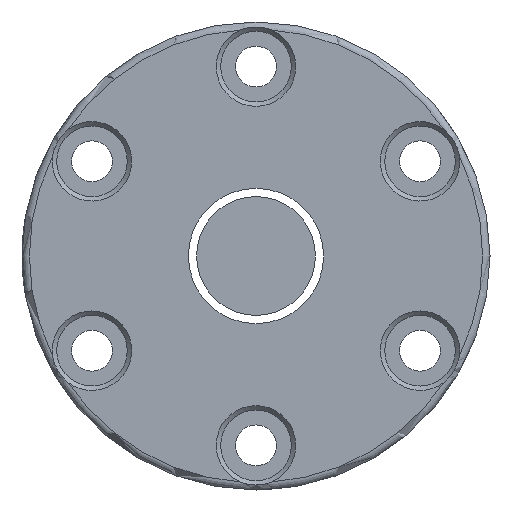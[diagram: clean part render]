
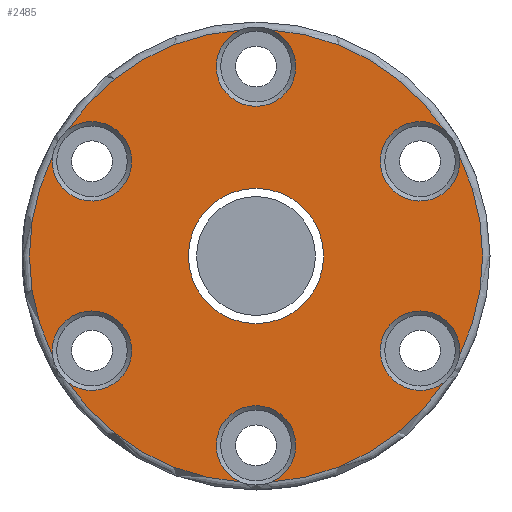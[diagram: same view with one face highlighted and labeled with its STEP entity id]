
A CAD part, left-side view. The second image highlights one B-rep face of the part: STEP entity #2485.
In plain terms, the highlighted planar face has unit normal (-1, 0, 0).
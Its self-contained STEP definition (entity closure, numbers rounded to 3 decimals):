
#7 = AXIS2_PLACEMENT_3D ( 'NONE', #2171, #3075, #946 ) ;
#83 = CARTESIAN_POINT ( 'NONE',  ( -56., 0., 0. ) ) ;
#89 = EDGE_CURVE ( 'NONE', #2234, #2029, #2149, .T. ) ;
#124 = AXIS2_PLACEMENT_3D ( 'NONE', #346, #827, #2183 ) ;
#132 = AXIS2_PLACEMENT_3D ( 'NONE', #2760, #1292, #998 ) ;
#160 = EDGE_CURVE ( 'NONE', #2140, #2688, #1552, .T. ) ;
#184 = EDGE_CURVE ( 'NONE', #2029, #2482, #1953, .T. ) ;
#203 = DIRECTION ( 'NONE',  ( -1., 0., 0. ) ) ;
#226 = AXIS2_PLACEMENT_3D ( 'NONE', #1399, #2352, #781 ) ;
#292 = CARTESIAN_POINT ( 'NONE',  ( -56., -27.392, 13.413 ) ) ;
#315 = EDGE_CURVE ( 'NONE', #2041, #560, #475, .T. ) ;
#346 = CARTESIAN_POINT ( 'NONE',  ( -56., 0., 0. ) ) ;
#402 = DIRECTION ( 'NONE',  ( 0., 0., 1. ) ) ;
#422 = CARTESIAN_POINT ( 'NONE',  ( -56., 2.08, 30.429 ) ) ;
#475 = CIRCLE ( 'NONE', #226, 5.35 ) ;
#498 = DIRECTION ( 'NONE',  ( 0., 0., 1. ) ) ;
#555 = CARTESIAN_POINT ( 'NONE',  ( -56., 27.392, 13.413 ) ) ;
#560 = VERTEX_POINT ( 'NONE', #555 ) ;
#578 = ORIENTED_EDGE ( 'NONE', *, *, #89, .T. ) ;
#626 = FACE_BOUND ( 'NONE', #1385, .T. ) ;
#659 = CIRCLE ( 'NONE', #1343, 30.5 ) ;
#774 = EDGE_CURVE ( 'NONE', #2731, #2018, #2105, .T. ) ;
#781 = DIRECTION ( 'NONE',  ( 0., 0., 1. ) ) ;
#786 = CARTESIAN_POINT ( 'NONE',  ( -56., -2.08, 30.429 ) ) ;
#818 = DIRECTION ( 'NONE',  ( 0., 0., -1. ) ) ;
#827 = DIRECTION ( 'NONE',  ( -1., 0., 0. ) ) ;
#833 = ORIENTED_EDGE ( 'NONE', *, *, #2532, .T. ) ;
#851 = EDGE_CURVE ( 'NONE', #2018, #2668, #2556, .T. ) ;
#876 = FACE_OUTER_BOUND ( 'NONE', #1734, .T. ) ;
#887 = EDGE_CURVE ( 'NONE', #1434, #2731, #2958, .T. ) ;
#903 = PLANE ( 'NONE',  #2539 ) ;
#933 = CARTESIAN_POINT ( 'NONE',  ( -56., 0., 0. ) ) ;
#946 = DIRECTION ( 'NONE',  ( 0., 0., 1. ) ) ;
#962 = CARTESIAN_POINT ( 'NONE',  ( -56., -22.084, 12.75 ) ) ;
#998 = DIRECTION ( 'NONE',  ( 0., 0., 1. ) ) ;
#1076 = AXIS2_PLACEMENT_3D ( 'NONE', #1202, #2594, #2894 ) ;
#1078 = AXIS2_PLACEMENT_3D ( 'NONE', #2322, #203, #1401 ) ;
#1086 = CARTESIAN_POINT ( 'NONE',  ( -56., 0., -9.1 ) ) ;
#1127 = VERTEX_POINT ( 'NONE', #1086 ) ;
#1202 = CARTESIAN_POINT ( 'NONE',  ( -56., 22.084, -12.75 ) ) ;
#1239 = ORIENTED_EDGE ( 'NONE', *, *, #1773, .T. ) ;
#1292 = DIRECTION ( 'NONE',  ( 1., 0., 0. ) ) ;
#1304 = CARTESIAN_POINT ( 'NONE',  ( -56., 25.312, 17.016 ) ) ;
#1321 = CARTESIAN_POINT ( 'NONE',  ( -56., -2.08, -30.429 ) ) ;
#1343 = AXIS2_PLACEMENT_3D ( 'NONE', #2855, #2384, #2338 ) ;
#1377 = CARTESIAN_POINT ( 'NONE',  ( -56., 25.312, -17.016 ) ) ;
#1385 = EDGE_LOOP ( 'NONE', ( #1701 ) ) ;
#1399 = CARTESIAN_POINT ( 'NONE',  ( -56., 22.084, 12.75 ) ) ;
#1401 = DIRECTION ( 'NONE',  ( 0., 0., 1. ) ) ;
#1434 = VERTEX_POINT ( 'NONE', #2002 ) ;
#1449 = ORIENTED_EDGE ( 'NONE', *, *, #774, .T. ) ;
#1455 = CARTESIAN_POINT ( 'NONE',  ( -56., 0., -25.5 ) ) ;
#1502 = DIRECTION ( 'NONE',  ( 1., 0., 0. ) ) ;
#1508 = EDGE_CURVE ( 'NONE', #1127, #1127, #1556, .T. ) ;
#1527 = ORIENTED_EDGE ( 'NONE', *, *, #851, .T. ) ;
#1529 = ORIENTED_EDGE ( 'NONE', *, *, #184, .T. ) ;
#1552 = CIRCLE ( 'NONE', #2652, 5.35 ) ;
#1556 = CIRCLE ( 'NONE', #1904, 9.1 ) ;
#1559 = ORIENTED_EDGE ( 'NONE', *, *, #315, .T. ) ;
#1639 = AXIS2_PLACEMENT_3D ( 'NONE', #933, #1867, #2427 ) ;
#1690 = AXIS2_PLACEMENT_3D ( 'NONE', #962, #1899, #498 ) ;
#1701 = ORIENTED_EDGE ( 'NONE', *, *, #1508, .T. ) ;
#1734 = EDGE_LOOP ( 'NONE', ( #1529, #1239, #1559, #2746, #2186, #1449, #1527, #2109, #1766, #1868, #833, #578 ) ) ;
#1766 = ORIENTED_EDGE ( 'NONE', *, *, #160, .T. ) ;
#1767 = DIRECTION ( 'NONE',  ( 1., 0., 0. ) ) ;
#1773 = EDGE_CURVE ( 'NONE', #2482, #2041, #2406, .T. ) ;
#1821 = EDGE_CURVE ( 'NONE', #560, #1434, #2804, .T. ) ;
#1846 = CARTESIAN_POINT ( 'NONE',  ( -56., -27.392, -13.413 ) ) ;
#1867 = DIRECTION ( 'NONE',  ( -1., 0., 0. ) ) ;
#1868 = ORIENTED_EDGE ( 'NONE', *, *, #2584, .T. ) ;
#1899 = DIRECTION ( 'NONE',  ( 1., 0., 0. ) ) ;
#1904 = AXIS2_PLACEMENT_3D ( 'NONE', #83, #1767, #818 ) ;
#1920 = CARTESIAN_POINT ( 'NONE',  ( -56., 0., 0. ) ) ;
#1937 = CIRCLE ( 'NONE', #1690, 5.35 ) ;
#1953 = CIRCLE ( 'NONE', #132, 5.35 ) ;
#1987 = DIRECTION ( 'NONE',  ( 0., 0., 1. ) ) ;
#2002 = CARTESIAN_POINT ( 'NONE',  ( -56., 27.392, -13.413 ) ) ;
#2018 = VERTEX_POINT ( 'NONE', #2703 ) ;
#2029 = VERTEX_POINT ( 'NONE', #786 ) ;
#2041 = VERTEX_POINT ( 'NONE', #1304 ) ;
#2105 = CIRCLE ( 'NONE', #2453, 30.5 ) ;
#2109 = ORIENTED_EDGE ( 'NONE', *, *, #2552, .T. ) ;
#2140 = VERTEX_POINT ( 'NONE', #2690 ) ;
#2149 = CIRCLE ( 'NONE', #124, 30.5 ) ;
#2171 = CARTESIAN_POINT ( 'NONE',  ( -56., 0., 0. ) ) ;
#2183 = DIRECTION ( 'NONE',  ( 0., 0., 1. ) ) ;
#2186 = ORIENTED_EDGE ( 'NONE', *, *, #887, .T. ) ;
#2234 = VERTEX_POINT ( 'NONE', #2983 ) ;
#2276 = CARTESIAN_POINT ( 'NONE',  ( -56., 31.5, 0. ) ) ;
#2322 = CARTESIAN_POINT ( 'NONE',  ( -56., 0., 0. ) ) ;
#2338 = DIRECTION ( 'NONE',  ( 0., 0., 1. ) ) ;
#2352 = DIRECTION ( 'NONE',  ( 1., 0., 0. ) ) ;
#2384 = DIRECTION ( 'NONE',  ( -1., 0., 0. ) ) ;
#2406 = CIRCLE ( 'NONE', #1078, 30.5 ) ;
#2427 = DIRECTION ( 'NONE',  ( 0., 0., 1. ) ) ;
#2453 = AXIS2_PLACEMENT_3D ( 'NONE', #1920, #2876, #3080 ) ;
#2455 = CARTESIAN_POINT ( 'NONE',  ( -56., -22.084, -12.75 ) ) ;
#2482 = VERTEX_POINT ( 'NONE', #422 ) ;
#2485 = ADVANCED_FACE ( 'NONE', ( #876, #626 ), #903, .T. ) ;
#2532 = EDGE_CURVE ( 'NONE', #2980, #2234, #1937, .T. ) ;
#2539 = AXIS2_PLACEMENT_3D ( 'NONE', #2276, #2762, #402 ) ;
#2552 = EDGE_CURVE ( 'NONE', #2668, #2140, #659, .T. ) ;
#2556 = CIRCLE ( 'NONE', #3001, 5.35 ) ;
#2584 = EDGE_CURVE ( 'NONE', #2688, #2980, #2740, .T. ) ;
#2594 = DIRECTION ( 'NONE',  ( 1., 0., 0. ) ) ;
#2652 = AXIS2_PLACEMENT_3D ( 'NONE', #2455, #1502, #1987 ) ;
#2668 = VERTEX_POINT ( 'NONE', #1321 ) ;
#2688 = VERTEX_POINT ( 'NONE', #1846 ) ;
#2690 = CARTESIAN_POINT ( 'NONE',  ( -56., -25.312, -17.016 ) ) ;
#2703 = CARTESIAN_POINT ( 'NONE',  ( -56., 2.08, -30.429 ) ) ;
#2731 = VERTEX_POINT ( 'NONE', #1377 ) ;
#2740 = CIRCLE ( 'NONE', #7, 30.5 ) ;
#2746 = ORIENTED_EDGE ( 'NONE', *, *, #1821, .T. ) ;
#2760 = CARTESIAN_POINT ( 'NONE',  ( -56., 0., 25.5 ) ) ;
#2762 = DIRECTION ( 'NONE',  ( -1., 0., 0. ) ) ;
#2804 = CIRCLE ( 'NONE', #1639, 30.5 ) ;
#2843 = DIRECTION ( 'NONE',  ( 1., 0., 0. ) ) ;
#2855 = CARTESIAN_POINT ( 'NONE',  ( -56., 0., 0. ) ) ;
#2860 = DIRECTION ( 'NONE',  ( 0., 0., 1. ) ) ;
#2876 = DIRECTION ( 'NONE',  ( -1., 0., 0. ) ) ;
#2894 = DIRECTION ( 'NONE',  ( 0., 0., 1. ) ) ;
#2958 = CIRCLE ( 'NONE', #1076, 5.35 ) ;
#2980 = VERTEX_POINT ( 'NONE', #292 ) ;
#2983 = CARTESIAN_POINT ( 'NONE',  ( -56., -25.312, 17.016 ) ) ;
#3001 = AXIS2_PLACEMENT_3D ( 'NONE', #1455, #2843, #2860 ) ;
#3075 = DIRECTION ( 'NONE',  ( -1., 0., 0. ) ) ;
#3080 = DIRECTION ( 'NONE',  ( 0., 0., 1. ) ) ;
